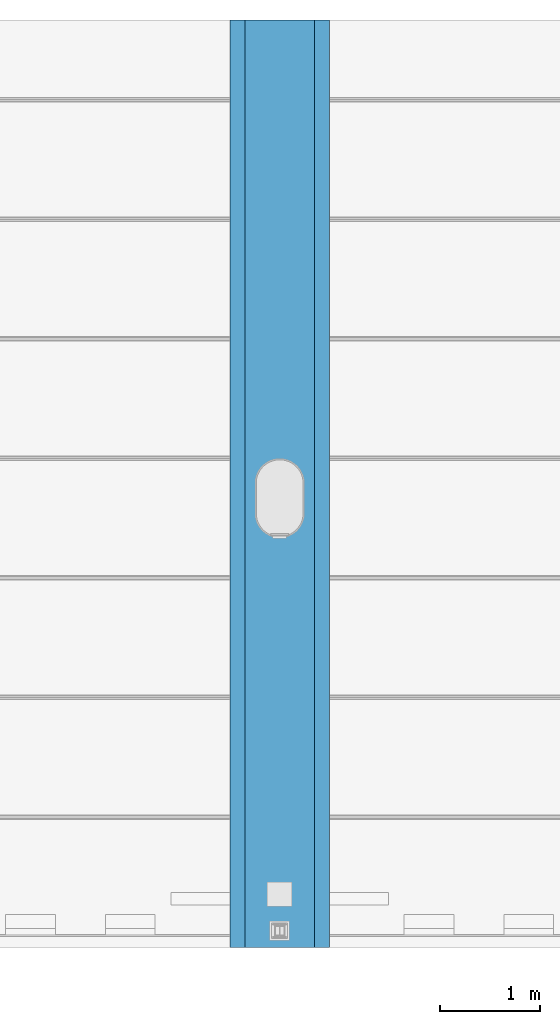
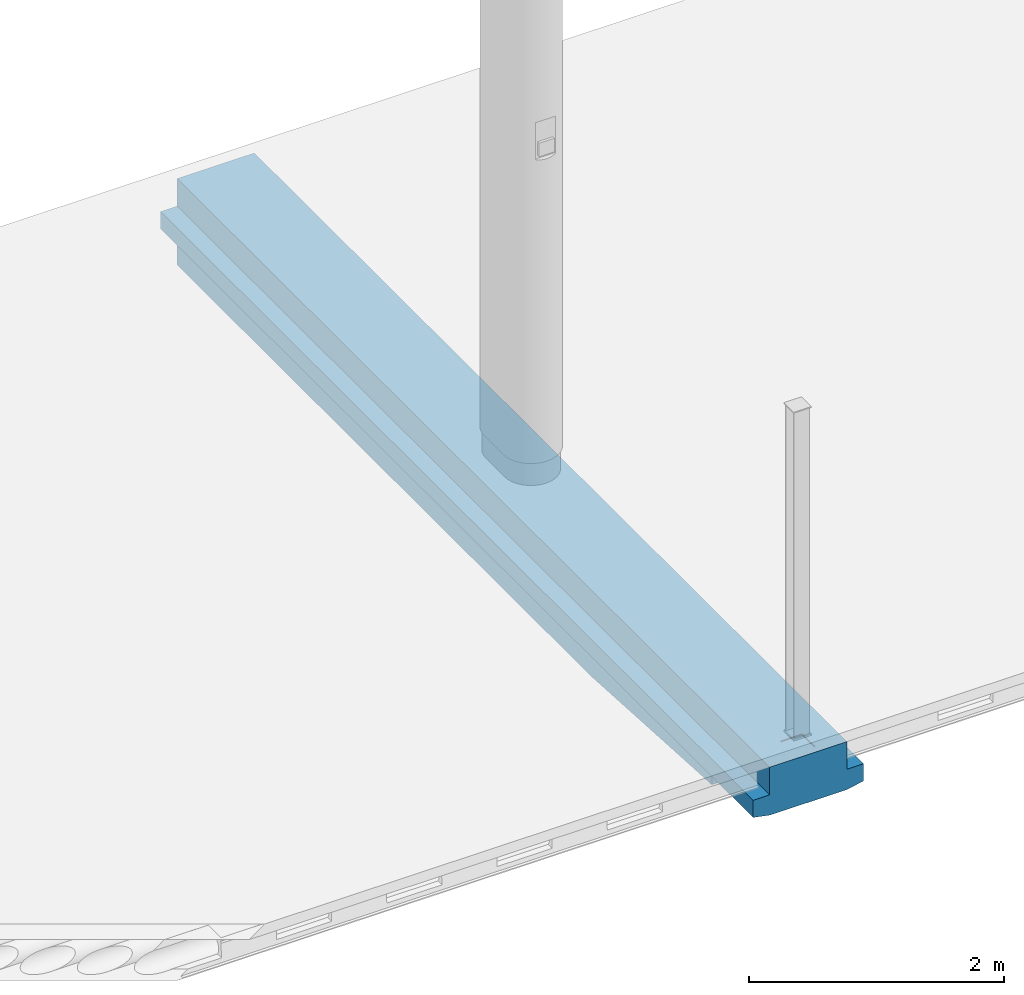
# One storey, part 10 of 15: 1 beam.
"""IFC2X3 building model written with IfcOpenShell, lengths in millimetres."""

from ifc_helpers import new_model, entity, si_unit, converted_unit, derived_unit, direction, frame, origin_with_axes, place, context, subcontext, project, spatial, faceted_brep, type_object, element, save


model = new_model("IFC2X3")

# Units and contexts
model_context = context("Model", 3, precision=0.01, world=frame((0.0, 4.29681676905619e-09, 0.0)), true_north=direction((4.01073788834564e-13, 1.0)))
plan_context = context("Plan", 3, precision=0.01, world=frame((0.0, 4.29681676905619e-09, 0.0)), true_north=direction((4.01073788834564e-13, 1.0)))
body_context = subcontext(model_context, "Body", "Model", "MODEL_VIEW")
ifc_project = project(units=[converted_unit("PLANEANGLEUNIT", "DEGREE", entity("IfcPositiveLengthMeasure", 0.0174532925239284), si_unit("PLANEANGLEUNIT", "RADIAN"), dimensions=[0, 0, 0, 0, 0, 0, 0]), si_unit("AREAUNIT", "SQUARE_METRE"), si_unit("LENGTHUNIT", "METRE", prefix="MILLI"), si_unit("MASSUNIT", "GRAM", prefix="KILO"), si_unit("POWERUNIT", "WATT"), si_unit("PRESSUREUNIT", "PASCAL", prefix="KILO"), si_unit("FORCEUNIT", "NEWTON", prefix="KILO"), si_unit("ELECTRICVOLTAGEUNIT", "VOLT"), si_unit("ELECTRICCURRENTUNIT", "AMPERE"), si_unit("THERMODYNAMICTEMPERATUREUNIT", "DEGREE_CELSIUS"), si_unit("TIMEUNIT", "SECOND"), si_unit("VOLUMEUNIT", "CUBIC_METRE"), derived_unit("LINEARVELOCITYUNIT", [(si_unit("LENGTHUNIT", "METRE"), 1), (si_unit("TIMEUNIT", "SECOND"), -1)]), derived_unit("VOLUMETRICFLOWRATEUNIT", [(si_unit("VOLUMEUNIT", "CUBIC_METRE"), 1), (si_unit("TIMEUNIT", "SECOND"), -1)]), derived_unit("THERMALTRANSMITTANCEUNIT", [(si_unit("POWERUNIT", "WATT"), 1), (si_unit("THERMODYNAMICTEMPERATUREUNIT", "KELVIN"), -1), (si_unit("AREAUNIT", "SQUARE_METRE"), -1)]), derived_unit("SOUNDPRESSUREUNIT", [(si_unit("PRESSUREUNIT", "PASCAL"), 1)])], contexts=[model_context, plan_context])

# Site, building, storey
site_placement = place(None, frame((0.0, -4.29681676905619e-09, 0.0), z_axis=(0.0, 0.0, 1.0), x_axis=(1.0, 0.0, 0.0)))
site = spatial("IfcSite", under=ifc_project, at=site_placement, Name="Gardermoen", CompositionType="ELEMENT")
building_placement = place(site_placement, frame((0.0, 4.29681676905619e-09, 0.0), z_axis=(0.0, 0.0, 1.0), x_axis=(1.0, 0.0, 0.0)))
building = spatial("IfcBuilding", under=site, at=building_placement, Name="TG", CompositionType="ELEMENT")
storey_placement = place(building_placement, origin_with_axes())
storey = spatial("IfcBuildingStorey", under=building, at=storey_placement, Name="F", CompositionType="ELEMENT", Elevation=0.0)

# Beam
beam_type = type_object("IfcBeamType", Name="AAJKORS265*195*30*900*150*700*700", PredefinedType="NOTDEFINED")
beam_placement = place(storey_placement, frame((339999.999766, 472392.261282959, 209580.0), z_axis=(0.0, 0.0, 1.0), x_axis=(0.0, -1.0, 0.0)))
element("IfcBeam", 1, at=beam_placement, inside=storey, type_object=beam_type, Name="PREFABBJELKE", ObjectType="AAJKORS265*195*30*900*150*700*700", context=body_context, shape_type="Brep", body=[
    faceted_brep([(13542.2483743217, 124.98006001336, 0.000762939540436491), (13542.2684848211, -125.019939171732, 0.000762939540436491), (13792.2684848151, -124.999828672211, 0.000762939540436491), (13792.2483743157, 125.000170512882, 0.000762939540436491), (13542.2684848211, -125.019939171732, -9.99923706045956), (13542.2483743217, 124.98006001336, -9.99923706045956), (13792.2483743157, 125.000170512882, -9.99923706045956), (13792.2684848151, -124.999828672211, -9.99923706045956), (4892.26128296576, 350.000000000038, 450.0), (4892.26128296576, 350.000000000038, 185.0), (14202.2569079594, 350.0, 185.0), (14202.2569079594, 350.0, 450.0), (4892.26128296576, 500.000000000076, 185.0), (14202.2569079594, 500.0, 185.0), (4892.26128296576, 500.000000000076, 20.0), (14202.2569079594, 500.0, 20.0), (4892.26128296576, -499.999999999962, 20.0), (4892.26128296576, -499.999999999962, 185.0), (14202.2569079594, -500.0, 185.0), (14202.2569079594, -500.0, 20.0), (4892.26128296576, -350.0, 185.0), (14202.2569079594, -350.0, 185.0), (4892.26128296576, -350.0, 450.0), (14202.2569079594, -350.0, 450.0), (14134.2669645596, 100.014604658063, 440.0), (14134.2468539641, -99.9853943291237, 440.0), (13934.2468549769, -99.965283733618, 440.0), (13934.2669655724, 100.034715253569, 440.0), (14134.2468539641, -99.9853943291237, 450.0), (14134.2669645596, 100.014604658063, 450.0), (13934.2669655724, 100.034715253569, 450.0), (13934.2468549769, -99.965283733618, 450.0), (11397.7960987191, 350.0, -380.0), (11397.7960987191, -350.0, -380.0), (13292.2569079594, -350.0, -269.998878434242), (13292.2569079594, 350.0, -269.998878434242), (13292.2569079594, -350.0, -10.0), (13292.2569079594, 350.0, -10.0), (8964.70192847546, -350.0, -70.5885716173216), (8964.70192847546, 350.0, -70.5885716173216), (8957.20939678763, 350.0, -52.5), (8957.20939678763, -350.0, -52.5), (8967.25749150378, -350.0, -90.0), (8967.25749150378, 350.0, -90.0), (8964.70192847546, -350.0, -109.411428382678), (8964.70192847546, 350.0, -109.411428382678), (8957.20939678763, -350.0, -127.5), (8957.20939678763, 350.0, -127.5), (8945.29050009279, -350.0, -143.033008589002), (8945.29050009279, 350.0, -143.033008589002), (8929.75749150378, -350.0, -154.951905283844), (8929.75749150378, 350.0, -154.951905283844), (8911.66891988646, -350.0, -162.44443697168), (8911.66891988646, 350.0, -162.44443697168), (8892.25749150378, -350.0, -165.0), (8892.25749150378, 350.0, -165.0), (8872.84606312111, -350.0, -162.44443697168), (8872.84606312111, 350.0, -162.44443697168), (8854.75749150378, -350.0, -154.951905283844), (8854.75749150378, 350.0, -154.951905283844), (8839.22448291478, -350.0, -143.033008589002), (8839.22448291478, 350.0, -143.033008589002), (8827.30558621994, -350.0, -127.5), (8827.30558621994, 350.0, -127.5), (8819.8130545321, -350.0, -109.411428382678), (8819.8130545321, 350.0, -109.411428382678), (8817.25749150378, -350.0, -90.0), (8817.25749150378, 350.0, -90.0), (8819.8130545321, -350.0, -70.5885716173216), (8819.8130545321, 350.0, -70.5885716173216), (8827.30558621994, -350.0, -52.5), (8827.30558621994, 350.0, -52.5), (8839.22448291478, -350.0, -36.9669914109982), (8839.22448291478, 350.0, -36.9669914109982), (8854.75749150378, -350.0, -25.0480947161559), (8854.75749150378, 350.0, -25.0480947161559), (8872.84606312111, -350.0, -17.5555630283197), (8872.84606312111, 350.0, -17.5555630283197), (8892.25749150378, -350.0, -15.0), (8892.25749150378, 350.0, -15.0), (8911.66891988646, -350.0, -17.5555630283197), (8911.66891988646, 350.0, -17.5555630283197), (8929.75749150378, -350.0, -25.0480947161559), (8929.75749150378, 350.0, -25.0480947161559), (8945.29050009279, -350.0, -36.9669914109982), (8945.29050009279, 350.0, -36.9669914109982), (7114.70192847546, -350.0, -70.5885716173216), (7114.70192847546, 350.0, -70.5885716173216), (7107.20939678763, 350.0, -52.5), (7107.20939678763, -350.0, -52.5), (7117.25749150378, -350.0, -90.0), (7117.25749150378, 350.0, -90.0), (7114.70192847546, -350.0, -109.411428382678), (7114.70192847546, 350.0, -109.411428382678), (7107.20939678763, -350.0, -127.5), (7107.20939678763, 350.0, -127.5), (7095.29050009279, -350.0, -143.033008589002), (7095.29050009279, 350.0, -143.033008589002), (7079.75749150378, -350.0, -154.951905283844), (7079.75749150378, 350.0, -154.951905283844), (7061.66891988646, -350.0, -162.44443697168), (7061.66891988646, 350.0, -162.44443697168), (7042.25749150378, -350.0, -165.0), (7042.25749150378, 350.0, -165.0), (7022.84606312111, -350.0, -162.44443697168), (7022.84606312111, 350.0, -162.44443697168), (7004.75749150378, -350.0, -154.951905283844), (7004.75749150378, 350.0, -154.951905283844), (6989.22448291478, -350.0, -143.033008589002), (6989.22448291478, 350.0, -143.033008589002), (6977.30558621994, -350.0, -127.5), (6977.30558621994, 350.0, -127.5), (6969.8130545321, -350.0, -109.411428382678), (6969.8130545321, 350.0, -109.411428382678), (6967.25749150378, -350.0, -90.0), (6967.25749150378, 350.0, -90.0), (6969.8130545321, -350.0, -70.5885716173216), (6969.8130545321, 350.0, -70.5885716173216), (6977.30558621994, -350.0, -52.5), (6977.30558621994, 350.0, -52.5), (6989.22448291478, -350.0, -36.9669914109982), (6989.22448291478, 350.0, -36.9669914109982), (7004.75749150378, -350.0, -25.0480947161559), (7004.75749150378, 350.0, -25.0480947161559), (7022.84606312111, -350.0, -17.5555630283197), (7022.84606312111, 350.0, -17.5555630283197), (7042.25749150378, -350.0, -15.0), (7042.25749150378, 350.0, -15.0), (7061.66891988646, -350.0, -17.5555630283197), (7061.66891988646, 350.0, -17.5555630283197), (7079.75749150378, -350.0, -25.0480947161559), (7079.75749150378, 350.0, -25.0480947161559), (7095.29050009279, -350.0, -36.9669914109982), (7095.29050009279, 350.0, -36.9669914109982), (6814.70192847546, -350.0, -70.5885716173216), (6814.70192847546, 350.0, -70.5885716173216), (6807.20939678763, 350.0, -52.5), (6807.20939678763, -350.0, -52.5), (6817.25749150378, -350.0, -90.0), (6817.25749150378, 350.0, -90.0), (6814.70192847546, -350.0, -109.411428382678), (6814.70192847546, 350.0, -109.411428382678), (6807.20939678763, -350.0, -127.5), (6807.20939678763, 350.0, -127.5), (6795.29050009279, -350.0, -143.033008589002), (6795.29050009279, 350.0, -143.033008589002), (6779.75749150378, -350.0, -154.951905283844), (6779.75749150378, 350.0, -154.951905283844), (6761.66891988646, -350.0, -162.44443697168), (6761.66891988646, 350.0, -162.44443697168), (6742.25749150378, -350.0, -165.0), (6742.25749150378, 350.0, -165.0), (6722.84606312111, -350.0, -162.44443697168), (6722.84606312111, 350.0, -162.44443697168), (6704.75749150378, -350.0, -154.951905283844), (6704.75749150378, 350.0, -154.951905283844), (6689.22448291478, -350.0, -143.033008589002), (6689.22448291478, 350.0, -143.033008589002), (6677.30558621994, -350.0, -127.5), (6677.30558621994, 350.0, -127.5), (6669.8130545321, -350.0, -109.411428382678), (6669.8130545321, 350.0, -109.411428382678), (6667.25749150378, -350.0, -90.0), (6667.25749150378, 350.0, -90.0), (6669.8130545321, -350.0, -70.5885716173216), (6669.8130545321, 350.0, -70.5885716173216), (6677.30558621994, -350.0, -52.5), (6677.30558621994, 350.0, -52.5), (6689.22448291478, -350.0, -36.9669914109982), (6689.22448291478, 350.0, -36.9669914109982), (6704.75749150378, -350.0, -25.0480947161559), (6704.75749150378, 350.0, -25.0480947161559), (6722.84606312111, -350.0, -17.5555630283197), (6722.84606312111, 350.0, -17.5555630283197), (6742.25749150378, -350.0, -15.0), (6742.25749150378, 350.0, -15.0), (6761.66891988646, -350.0, -17.5555630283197), (6761.66891988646, 350.0, -17.5555630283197), (6779.75749150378, -350.0, -25.0480947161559), (6779.75749150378, 350.0, -25.0480947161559), (6795.29050009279, -350.0, -36.9669914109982), (6795.29050009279, 350.0, -36.9669914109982), (6514.70192847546, -350.0, -70.5885716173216), (6514.70192847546, 350.0, -70.5885716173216), (6507.20939678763, 350.0, -52.5), (6507.20939678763, -350.0, -52.5), (6517.25749150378, -350.0, -90.0), (6517.25749150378, 350.0, -90.0), (6514.70192847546, -350.0, -109.411428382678), (6514.70192847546, 350.0, -109.411428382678), (6507.20939678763, -350.0, -127.5), (6507.20939678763, 350.0, -127.5), (6495.29050009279, -350.0, -143.033008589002), (6495.29050009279, 350.0, -143.033008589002), (6479.75749150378, -350.0, -154.951905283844), (6479.75749150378, 350.0, -154.951905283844), (6461.66891988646, -350.0, -162.44443697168), (6461.66891988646, 350.0, -162.44443697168), (6442.25749150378, -350.0, -165.0), (6442.25749150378, 350.0, -165.0), (6422.84606312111, -350.0, -162.44443697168), (6422.84606312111, 350.0, -162.44443697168), (6404.75749150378, -350.0, -154.951905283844), (6404.75749150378, 350.0, -154.951905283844), (6389.22448291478, -350.0, -143.033008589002), (6389.22448291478, 350.0, -143.033008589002), (6377.30558621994, -350.0, -127.5), (6377.30558621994, 350.0, -127.5), (6369.8130545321, -350.0, -109.411428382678), (6369.8130545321, 350.0, -109.411428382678), (6367.25749150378, -350.0, -90.0), (6367.25749150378, 350.0, -90.0), (6369.8130545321, -350.0, -70.5885716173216), (6369.8130545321, 350.0, -70.5885716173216), (6377.30558621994, -350.0, -52.5), (6377.30558621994, 350.0, -52.5), (6389.22448291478, -350.0, -36.9669914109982), (6389.22448291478, 350.0, -36.9669914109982), (6404.75749150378, -350.0, -25.0480947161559), (6404.75749150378, 350.0, -25.0480947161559), (6422.84606312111, -350.0, -17.5555630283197), (6422.84606312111, 350.0, -17.5555630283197), (6442.25749150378, -350.0, -15.0), (6442.25749150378, 350.0, -15.0), (6461.66891988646, -350.0, -17.5555630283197), (6461.66891988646, 350.0, -17.5555630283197), (6479.75749150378, -350.0, -25.0480947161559), (6479.75749150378, 350.0, -25.0480947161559), (6495.29050009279, -350.0, -36.9669914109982), (6495.29050009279, 350.0, -36.9669914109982), (6214.70192847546, -350.0, -70.5885716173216), (6214.70192847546, 350.0, -70.5885716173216), (6207.20939678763, 350.0, -52.5), (6207.20939678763, -350.0, -52.5), (6217.25749150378, -350.0, -90.0), (6217.25749150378, 350.0, -90.0), (6214.70192847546, -350.0, -109.411428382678), (6214.70192847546, 350.0, -109.411428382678), (6207.20939678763, -350.0, -127.5), (6207.20939678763, 350.0, -127.5), (6195.29050009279, -350.0, -143.033008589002), (6195.29050009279, 350.0, -143.033008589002), (6179.75749150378, -350.0, -154.951905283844), (6179.75749150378, 350.0, -154.951905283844), (6161.66891988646, -350.0, -162.44443697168), (6161.66891988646, 350.0, -162.44443697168), (6142.25749150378, -350.0, -165.0), (6142.25749150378, 350.0, -165.0), (6122.84606312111, -350.0, -162.44443697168), (6122.84606312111, 350.0, -162.44443697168), (6104.75749150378, -350.0, -154.951905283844), (6104.75749150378, 350.0, -154.951905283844), (6089.22448291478, -350.0, -143.033008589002), (6089.22448291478, 350.0, -143.033008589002), (6077.30558621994, -350.0, -127.5), (6077.30558621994, 350.0, -127.5), (6069.8130545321, -350.0, -109.411428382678), (6069.8130545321, 350.0, -109.411428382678), (6067.25749150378, -350.0, -90.0), (6067.25749150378, 350.0, -90.0), (6069.8130545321, -350.0, -70.5885716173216), (6069.8130545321, 350.0, -70.5885716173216), (6077.30558621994, -350.0, -52.5), (6077.30558621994, 350.0, -52.5), (6089.22448291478, -350.0, -36.9669914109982), (6089.22448291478, 350.0, -36.9669914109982), (6104.75749150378, -350.0, -25.0480947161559), (6104.75749150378, 350.0, -25.0480947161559), (6122.84606312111, -350.0, -17.5555630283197), (6122.84606312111, 350.0, -17.5555630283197), (6142.25749150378, -350.0, -15.0), (6142.25749150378, 350.0, -15.0), (6161.66891988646, -350.0, -17.5555630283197), (6161.66891988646, 350.0, -17.5555630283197), (6179.75749150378, -350.0, -25.0480947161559), (6179.75749150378, 350.0, -25.0480947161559), (6195.29050009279, -350.0, -36.9669914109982), (6195.29050009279, 350.0, -36.9669914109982), (5914.70192847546, -350.0, -70.5885716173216), (5914.70192847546, 350.0, -70.5885716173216), (5907.20939678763, 350.0, -52.5), (5907.20939678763, -350.0, -52.5), (5917.25749150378, -350.0, -90.0), (5917.25749150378, 350.0, -90.0), (5914.70192847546, -350.0, -109.411428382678), (5914.70192847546, 350.0, -109.411428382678), (5907.20939678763, -350.0, -127.5), (5907.20939678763, 350.0, -127.5), (5895.29050009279, -350.0, -143.033008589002), (5895.29050009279, 350.0, -143.033008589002), (5879.75749150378, -350.0, -154.951905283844), (5879.75749150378, 350.0, -154.951905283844), (5861.66891988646, -350.0, -162.44443697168), (5861.66891988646, 350.0, -162.44443697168), (5842.25749150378, -350.0, -165.0), (5842.25749150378, 350.0, -165.0), (5822.84606312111, -350.0, -162.44443697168), (5822.84606312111, 350.0, -162.44443697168), (5804.75749150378, -350.0, -154.951905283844), (5804.75749150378, 350.0, -154.951905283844), (5789.22448291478, -350.0, -143.033008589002), (5789.22448291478, 350.0, -143.033008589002), (5777.30558621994, -350.0, -127.5), (5777.30558621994, 350.0, -127.5), (5769.8130545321, -350.0, -109.411428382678), (5769.8130545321, 350.0, -109.411428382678), (5767.25749150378, -350.0, -90.0), (5767.25749150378, 350.0, -90.0), (5769.8130545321, -350.0, -70.5885716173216), (5769.8130545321, 350.0, -70.5885716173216), (5777.30558621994, -350.0, -52.5), (5777.30558621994, 350.0, -52.5), (5789.22448291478, -350.0, -36.9669914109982), (5789.22448291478, 350.0, -36.9669914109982), (5804.75749150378, -350.0, -25.0480947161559), (5804.75749150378, 350.0, -25.0480947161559), (5822.84606312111, -350.0, -17.5555630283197), (5822.84606312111, 350.0, -17.5555630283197), (5842.25749150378, -350.0, -15.0), (5842.25749150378, 350.0, -15.0), (5861.66891988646, -350.0, -17.5555630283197), (5861.66891988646, 350.0, -17.5555630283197), (5879.75749150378, -350.0, -25.0480947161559), (5879.75749150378, 350.0, -25.0480947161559), (5895.29050009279, -350.0, -36.9669914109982), (5895.29050009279, 350.0, -36.9669914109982), (5614.70192847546, -350.0, -70.5885716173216), (5614.70192847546, 350.0, -70.5885716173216), (5607.20939678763, 350.0, -52.5), (5607.20939678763, -350.0, -52.5), (5617.25749150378, -350.0, -90.0), (5617.25749150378, 350.0, -90.0), (5614.70192847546, -350.0, -109.411428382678), (5614.70192847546, 350.0, -109.411428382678), (5607.20939678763, -350.0, -127.5), (5607.20939678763, 350.0, -127.5), (5595.29050009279, -350.0, -143.033008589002), (5595.29050009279, 350.0, -143.033008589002), (5579.75749150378, -350.0, -154.951905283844), (5579.75749150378, 350.0, -154.951905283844), (5561.66891988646, -350.0, -162.44443697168), (5561.66891988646, 350.0, -162.44443697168), (5542.25749150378, -350.0, -165.0), (5542.25749150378, 350.0, -165.0), (5522.84606312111, -350.0, -162.44443697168), (5522.84606312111, 350.0, -162.44443697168), (5504.75749150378, -350.0, -154.951905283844), (5504.75749150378, 350.0, -154.951905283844), (5489.22448291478, -350.0, -143.033008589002), (5489.22448291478, 350.0, -143.033008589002), (5477.30558621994, -350.0, -127.5), (5477.30558621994, 350.0, -127.5), (5469.8130545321, -350.0, -109.411428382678), (5469.8130545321, 350.0, -109.411428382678), (5467.25749150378, -350.0, -90.0), (5467.25749150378, 350.0, -90.0), (5469.8130545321, -350.0, -70.5885716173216), (5469.8130545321, 350.0, -70.5885716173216), (5477.30558621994, -350.0, -52.5), (5477.30558621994, 350.0, -52.5), (5489.22448291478, -350.0, -36.9669914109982), (5489.22448291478, 350.0, -36.9669914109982), (5504.75749150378, -350.0, -25.0480947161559), (5504.75749150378, 350.0, -25.0480947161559), (5522.84606312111, -350.0, -17.5555630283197), (5522.84606312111, 350.0, -17.5555630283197), (5542.25749150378, -350.0, -15.0), (5542.25749150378, 350.0, -15.0), (5561.66891988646, -350.0, -17.5555630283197), (5561.66891988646, 350.0, -17.5555630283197), (5579.75749150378, -350.0, -25.0480947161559), (5579.75749150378, 350.0, -25.0480947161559), (5595.29050009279, -350.0, -36.9669914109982), (5595.29050009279, 350.0, -36.9669914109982), (5314.70192847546, -350.0, -70.5885716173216), (5314.70192847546, 350.0, -70.5885716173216), (5307.20939678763, 350.0, -52.5), (5307.20939678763, -350.0, -52.5), (5317.25749150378, -350.0, -90.0), (5317.25749150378, 350.0, -90.0), (5314.70192847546, -350.0, -109.411428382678), (5314.70192847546, 350.0, -109.411428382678), (5307.20939678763, -350.0, -127.5), (5307.20939678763, 350.0, -127.5), (5295.29050009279, -350.0, -143.033008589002), (5295.29050009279, 350.0, -143.033008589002), (5279.75749150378, -350.0, -154.951905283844), (5279.75749150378, 350.0, -154.951905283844), (5261.66891988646, -350.0, -162.44443697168), (5261.66891988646, 350.0, -162.44443697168), (5242.25749150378, -350.0, -165.0), (5242.25749150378, 350.0, -165.0), (5222.84606312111, -350.0, -162.44443697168), (5222.84606312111, 350.0, -162.44443697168), (5204.75749150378, -350.0, -154.951905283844), (5204.75749150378, 350.0, -154.951905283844), (5189.22448291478, -350.0, -143.033008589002), (5189.22448291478, 350.0, -143.033008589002), (5177.30558621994, -350.0, -127.5), (5177.30558621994, 350.0, -127.5), (5169.8130545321, -350.0, -109.411428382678), (5169.8130545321, 350.0, -109.411428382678), (5167.25749150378, -350.0, -90.0), (5167.25749150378, 350.0, -90.0), (5169.8130545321, -350.0, -70.5885716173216), (5169.8130545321, 350.0, -70.5885716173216), (5177.30558621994, -350.0, -52.5), (5177.30558621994, 350.0, -52.5), (5189.22448291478, -350.0, -36.9669914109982), (5189.22448291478, 350.0, -36.9669914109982), (5204.75749150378, -350.0, -25.0480947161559), (5204.75749150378, 350.0, -25.0480947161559), (5222.84606312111, -350.0, -17.5555630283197), (5222.84606312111, 350.0, -17.5555630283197), (5242.25749150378, -350.0, -15.0), (5242.25749150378, 350.0, -15.0), (5261.66891988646, -350.0, -17.5555630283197), (5261.66891988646, 350.0, -17.5555630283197), (5279.75749150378, -350.0, -25.0480947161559), (5279.75749150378, 350.0, -25.0480947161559), (5295.29050009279, -350.0, -36.9669914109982), (5295.29050009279, 350.0, -36.9669914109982), (5014.70192847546, -350.0, -70.5885716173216), (5014.70192847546, 350.0, -70.5885716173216), (5007.20939678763, 350.0, -52.5), (5007.20939678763, -350.0, -52.5), (5017.25749150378, -350.0, -90.0), (5017.25749150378, 350.0, -90.0), (5014.70192847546, -350.0, -109.411428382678), (5014.70192847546, 350.0, -109.411428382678), (5007.20939678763, -350.0, -127.5), (5007.20939678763, 350.0, -127.5), (4995.29050009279, -350.0, -143.033008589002), (4995.29050009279, 350.0, -143.033008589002), (4979.75749150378, -350.0, -154.951905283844), (4979.75749150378, 350.0, -154.951905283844), (4961.66891988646, -350.0, -162.44443697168), (4961.66891988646, 350.0, -162.44443697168), (4942.25749150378, -350.0, -165.0), (4942.25749150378, 350.0, -165.0), (4922.84606312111, -350.0, -162.44443697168), (4922.84606312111, 350.0, -162.44443697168), (4904.75749150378, -350.0, -154.951905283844), (4904.75749150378, 350.0, -154.951905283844), (4892.26128296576, -350.0, -145.363227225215), (4892.26128296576, 350.0, -145.363227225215), (4892.26128296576, 350.0, -34.6367727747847), (4892.26128296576, -350.0, -34.6367727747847), (4904.75749150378, -350.0, -25.0480947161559), (4904.75749150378, 350.0, -25.0480947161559), (4922.84606312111, -350.0, -17.5555630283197), (4922.84606312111, 350.0, -17.5555630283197), (4942.25749150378, -350.0, -15.0), (4942.25749150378, 350.0, -15.0), (4961.66891988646, -350.0, -17.5555630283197), (4961.66891988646, 350.0, -17.5555630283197), (4979.75749150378, -350.0, -25.0480947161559), (4979.75749150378, 350.0, -25.0480947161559), (4995.29050009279, -350.0, -36.9669914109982), (4995.29050009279, 350.0, -36.9669914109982), (4892.26128296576, 350.000000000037, -10.0), (4892.26128296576, 350.000000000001, -380.0), (4892.26128296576, -349.999999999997, -380.0), (4892.26128296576, -350.0, -10.0), (14202.2569079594, -350.0, -10.0), (14202.2569079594, 350.0, -10.0)], [[[0, 1, 2, 3]], [[4, 1, 0, 5]], [[5, 0, 3, 6]], [[6, 3, 2, 7]], [[7, 2, 1, 4]], [[8, 9, 10, 11]], [[9, 12, 13, 10]], [[12, 14, 15, 13]], [[16, 17, 18, 19]], [[17, 20, 21, 18]], [[20, 22, 23, 21]], [[24, 25, 26, 27]], [[28, 25, 24, 29]], [[29, 24, 27, 30]], [[30, 27, 26, 31]], [[31, 26, 25, 28]], [[22, 8, 11, 23], [31, 28, 29, 30]], [[32, 33, 34, 35]], [[35, 34, 36, 37]], [[38, 39, 40, 41]], [[42, 43, 39, 38]], [[44, 45, 43, 42]], [[46, 47, 45, 44]], [[48, 49, 47, 46]], [[50, 51, 49, 48]], [[52, 53, 51, 50]], [[54, 55, 53, 52]], [[56, 57, 55, 54]], [[58, 59, 57, 56]], [[60, 61, 59, 58]], [[62, 63, 61, 60]], [[64, 65, 63, 62]], [[66, 67, 65, 64]], [[68, 69, 67, 66]], [[70, 71, 69, 68]], [[72, 73, 71, 70]], [[74, 75, 73, 72]], [[76, 77, 75, 74]], [[78, 79, 77, 76]], [[80, 81, 79, 78]], [[82, 83, 81, 80]], [[84, 85, 83, 82]], [[41, 40, 85, 84]], [[86, 87, 88, 89]], [[90, 91, 87, 86]], [[92, 93, 91, 90]], [[94, 95, 93, 92]], [[96, 97, 95, 94]], [[98, 99, 97, 96]], [[100, 101, 99, 98]], [[102, 103, 101, 100]], [[104, 105, 103, 102]], [[106, 107, 105, 104]], [[108, 109, 107, 106]], [[110, 111, 109, 108]], [[112, 113, 111, 110]], [[114, 115, 113, 112]], [[116, 117, 115, 114]], [[118, 119, 117, 116]], [[120, 121, 119, 118]], [[122, 123, 121, 120]], [[124, 125, 123, 122]], [[126, 127, 125, 124]], [[128, 129, 127, 126]], [[130, 131, 129, 128]], [[132, 133, 131, 130]], [[89, 88, 133, 132]], [[134, 135, 136, 137]], [[138, 139, 135, 134]], [[140, 141, 139, 138]], [[142, 143, 141, 140]], [[144, 145, 143, 142]], [[146, 147, 145, 144]], [[148, 149, 147, 146]], [[150, 151, 149, 148]], [[152, 153, 151, 150]], [[154, 155, 153, 152]], [[156, 157, 155, 154]], [[158, 159, 157, 156]], [[160, 161, 159, 158]], [[162, 163, 161, 160]], [[164, 165, 163, 162]], [[166, 167, 165, 164]], [[168, 169, 167, 166]], [[170, 171, 169, 168]], [[172, 173, 171, 170]], [[174, 175, 173, 172]], [[176, 177, 175, 174]], [[178, 179, 177, 176]], [[180, 181, 179, 178]], [[137, 136, 181, 180]], [[182, 183, 184, 185]], [[186, 187, 183, 182]], [[188, 189, 187, 186]], [[190, 191, 189, 188]], [[192, 193, 191, 190]], [[194, 195, 193, 192]], [[196, 197, 195, 194]], [[198, 199, 197, 196]], [[200, 201, 199, 198]], [[202, 203, 201, 200]], [[204, 205, 203, 202]], [[206, 207, 205, 204]], [[208, 209, 207, 206]], [[210, 211, 209, 208]], [[212, 213, 211, 210]], [[214, 215, 213, 212]], [[216, 217, 215, 214]], [[218, 219, 217, 216]], [[220, 221, 219, 218]], [[222, 223, 221, 220]], [[224, 225, 223, 222]], [[226, 227, 225, 224]], [[228, 229, 227, 226]], [[185, 184, 229, 228]], [[230, 231, 232, 233]], [[234, 235, 231, 230]], [[236, 237, 235, 234]], [[238, 239, 237, 236]], [[240, 241, 239, 238]], [[242, 243, 241, 240]], [[244, 245, 243, 242]], [[246, 247, 245, 244]], [[248, 249, 247, 246]], [[250, 251, 249, 248]], [[252, 253, 251, 250]], [[254, 255, 253, 252]], [[256, 257, 255, 254]], [[258, 259, 257, 256]], [[260, 261, 259, 258]], [[262, 263, 261, 260]], [[264, 265, 263, 262]], [[266, 267, 265, 264]], [[268, 269, 267, 266]], [[270, 271, 269, 268]], [[272, 273, 271, 270]], [[274, 275, 273, 272]], [[276, 277, 275, 274]], [[233, 232, 277, 276]], [[278, 279, 280, 281]], [[282, 283, 279, 278]], [[284, 285, 283, 282]], [[286, 287, 285, 284]], [[288, 289, 287, 286]], [[290, 291, 289, 288]], [[292, 293, 291, 290]], [[294, 295, 293, 292]], [[296, 297, 295, 294]], [[298, 299, 297, 296]], [[300, 301, 299, 298]], [[302, 303, 301, 300]], [[304, 305, 303, 302]], [[306, 307, 305, 304]], [[308, 309, 307, 306]], [[310, 311, 309, 308]], [[312, 313, 311, 310]], [[314, 315, 313, 312]], [[316, 317, 315, 314]], [[318, 319, 317, 316]], [[320, 321, 319, 318]], [[322, 323, 321, 320]], [[324, 325, 323, 322]], [[281, 280, 325, 324]], [[326, 327, 328, 329]], [[330, 331, 327, 326]], [[332, 333, 331, 330]], [[334, 335, 333, 332]], [[336, 337, 335, 334]], [[338, 339, 337, 336]], [[340, 341, 339, 338]], [[342, 343, 341, 340]], [[344, 345, 343, 342]], [[346, 347, 345, 344]], [[348, 349, 347, 346]], [[350, 351, 349, 348]], [[352, 353, 351, 350]], [[354, 355, 353, 352]], [[356, 357, 355, 354]], [[358, 359, 357, 356]], [[360, 361, 359, 358]], [[362, 363, 361, 360]], [[364, 365, 363, 362]], [[366, 367, 365, 364]], [[368, 369, 367, 366]], [[370, 371, 369, 368]], [[372, 373, 371, 370]], [[329, 328, 373, 372]], [[374, 375, 376, 377]], [[378, 379, 375, 374]], [[380, 381, 379, 378]], [[382, 383, 381, 380]], [[384, 385, 383, 382]], [[386, 387, 385, 384]], [[388, 389, 387, 386]], [[390, 391, 389, 388]], [[392, 393, 391, 390]], [[394, 395, 393, 392]], [[396, 397, 395, 394]], [[398, 399, 397, 396]], [[400, 401, 399, 398]], [[402, 403, 401, 400]], [[404, 405, 403, 402]], [[406, 407, 405, 404]], [[408, 409, 407, 406]], [[410, 411, 409, 408]], [[412, 413, 411, 410]], [[414, 415, 413, 412]], [[416, 417, 415, 414]], [[418, 419, 417, 416]], [[420, 421, 419, 418]], [[377, 376, 421, 420]], [[422, 423, 424, 425]], [[426, 427, 423, 422]], [[428, 429, 427, 426]], [[430, 431, 429, 428]], [[432, 433, 431, 430]], [[434, 435, 433, 432]], [[436, 437, 435, 434]], [[438, 439, 437, 436]], [[440, 441, 439, 438]], [[442, 443, 441, 440]], [[444, 445, 443, 442]], [[446, 447, 448, 449]], [[450, 451, 449, 448]], [[452, 453, 451, 450]], [[454, 455, 453, 452]], [[456, 457, 455, 454]], [[458, 459, 457, 456]], [[425, 424, 459, 458]], [[460, 446, 449, 451, 453, 455, 457, 459, 424, 423, 427, 429, 431, 433, 435, 437, 439, 441, 443, 445, 461, 32, 35, 37], [375, 379, 381, 383, 385, 387, 389, 391, 393, 395, 397, 399, 401, 403, 405, 407, 409, 411, 413, 415, 417, 419, 421, 376], [327, 331, 333, 335, 337, 339, 341, 343, 345, 347, 349, 351, 353, 355, 357, 359, 361, 363, 365, 367, 369, 371, 373, 328], [279, 283, 285, 287, 289, 291, 293, 295, 297, 299, 301, 303, 305, 307, 309, 311, 313, 315, 317, 319, 321, 323, 325, 280], [231, 235, 237, 239, 241, 243, 245, 247, 249, 251, 253, 255, 257, 259, 261, 263, 265, 267, 269, 271, 273, 275, 277, 232], [183, 187, 189, 191, 193, 195, 197, 199, 201, 203, 205, 207, 209, 211, 213, 215, 217, 219, 221, 223, 225, 227, 229, 184], [135, 139, 141, 143, 145, 147, 149, 151, 153, 155, 157, 159, 161, 163, 165, 167, 169, 171, 173, 175, 177, 179, 181, 136], [87, 91, 93, 95, 97, 99, 101, 103, 105, 107, 109, 111, 113, 115, 117, 119, 121, 123, 125, 127, 129, 131, 133, 88], [39, 43, 45, 47, 49, 51, 53, 55, 57, 59, 61, 63, 65, 67, 69, 71, 73, 75, 77, 79, 81, 83, 85, 40]], [[33, 462, 444, 442, 440, 438, 436, 434, 432, 430, 428, 426, 422, 425, 458, 456, 454, 452, 450, 448, 447, 463, 36, 34], [380, 378, 374, 377, 420, 418, 416, 414, 412, 410, 408, 406, 404, 402, 400, 398, 396, 394, 392, 390, 388, 386, 384, 382], [332, 330, 326, 329, 372, 370, 368, 366, 364, 362, 360, 358, 356, 354, 352, 350, 348, 346, 344, 342, 340, 338, 336, 334], [284, 282, 278, 281, 324, 322, 320, 318, 316, 314, 312, 310, 308, 306, 304, 302, 300, 298, 296, 294, 292, 290, 288, 286], [236, 234, 230, 233, 276, 274, 272, 270, 268, 266, 264, 262, 260, 258, 256, 254, 252, 250, 248, 246, 244, 242, 240, 238], [188, 186, 182, 185, 228, 226, 224, 222, 220, 218, 216, 214, 212, 210, 208, 206, 204, 202, 200, 198, 196, 194, 192, 190], [140, 138, 134, 137, 180, 178, 176, 174, 172, 170, 168, 166, 164, 162, 160, 158, 156, 154, 152, 150, 148, 146, 144, 142], [92, 90, 86, 89, 132, 130, 128, 126, 124, 122, 120, 118, 116, 114, 112, 110, 108, 106, 104, 102, 100, 98, 96, 94], [44, 42, 38, 41, 84, 82, 80, 78, 76, 74, 72, 70, 68, 66, 64, 62, 60, 58, 56, 54, 52, 50, 48, 46]], [[463, 16, 19, 464]], [[465, 37, 36, 464], [6, 7, 4, 5]], [[14, 460, 465, 15]], [[465, 464, 19, 18, 21, 23, 11, 10, 13, 15]], [[461, 445, 444, 462]], [[22, 20, 17, 16, 463, 447, 446, 460, 14, 12, 9, 8]], [[462, 33, 32, 461]]], orient=[[False], [False], [False], [False], [False], [False], [False], [False], [False], [False], [False], [False], [False], [False], [False], [False], [False, False], [False], [False], [False], [False], [False], [False], [False], [False], [False], [False], [False], [False], [False], [False], [False], [False], [False], [False], [False], [False], [False], [False], [False], [False], [False], [False], [False], [False], [False], [False], [False], [False], [False], [False], [False], [False], [False], [False], [False], [False], [False], [False], [False], [False], [False], [False], [False], [False], [False], [False], [False], [False], [False], [False], [False], [False], [False], [False], [False], [False], [False], [False], [False], [False], [False], [False], [False], [False], [False], [False], [False], [False], [False], [False], [False], [False], [False], [False], [False], [False], [False], [False], [False], [False], [False], [False], [False], [False], [False], [False], [False], [False], [False], [False], [False], [False], [False], [False], [False], [False], [False], [False], [False], [False], [False], [False], [False], [False], [False], [False], [False], [False], [False], [False], [False], [False], [False], [False], [False], [False], [False], [False], [False], [False], [False], [False], [False], [False], [False], [False], [False], [False], [False], [False], [False], [False], [False], [False], [False], [False], [False], [False], [False], [False], [False], [False], [False], [False], [False], [False], [False], [False], [False], [False], [False], [False], [False], [False], [False], [False], [False], [False], [False], [False], [False], [False], [False], [False], [False], [False], [False], [False], [False], [False], [False], [False], [False], [False], [False], [False], [False], [False], [False], [False], [False], [False], [False], [False], [False], [False], [False], [False], [False], [False], [False], [False], [False], [False], [False], [False], [False], [False], [False], [False], [False], [False], [False], [False], [False], [False], [False], [False], [False, False, False, False, False, False, False, False, False], [False, False, False, False, False, False, False, False, False], [False], [False, False], [False], [False], [False], [False], [False]]),
])

save(model, "model.ifc")
